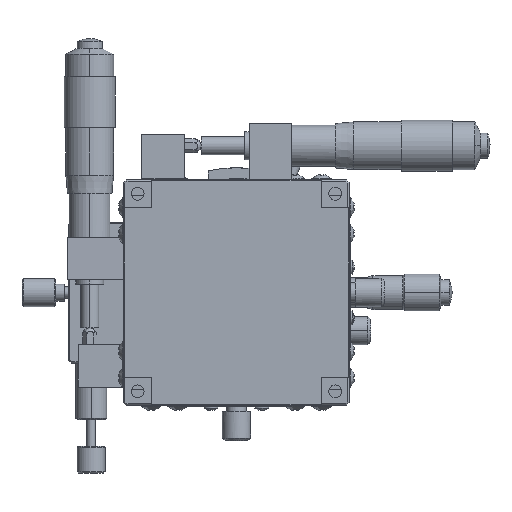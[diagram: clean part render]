
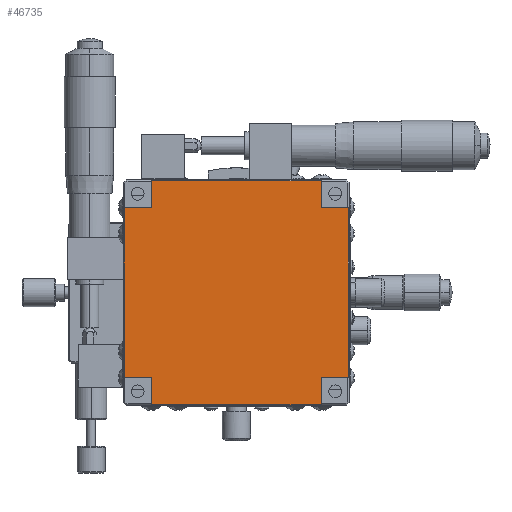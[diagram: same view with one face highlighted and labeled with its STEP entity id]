
A CAD part, front view. The second image highlights one B-rep face of the part: STEP entity #46735.
In plain terms, the highlighted planar face has unit normal (0, -1, 0).
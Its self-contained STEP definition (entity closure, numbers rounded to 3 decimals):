
#1333 = CARTESIAN_POINT ( 'NONE',  ( 22.855, -46.276, 86.465 ) ) ;
#1663 = LINE ( 'NONE', #52633, #39854 ) ;
#2036 = CARTESIAN_POINT ( 'NONE',  ( -46.845, -46.276, 86.465 ) ) ;
#2939 = CARTESIAN_POINT ( 'NONE',  ( 22.855, -46.276, 156.165 ) ) ;
#2988 = ORIENTED_EDGE ( 'NONE', *, *, #27297, .T. ) ;
#3189 = LINE ( 'NONE', #21402, #45895 ) ;
#3231 = VECTOR ( 'NONE', #43305, 1000. ) ;
#3241 = DIRECTION ( 'NONE',  ( 0., -1., 0. ) ) ;
#3281 = DIRECTION ( 'NONE',  ( 0., 0., 1. ) ) ;
#3804 = CARTESIAN_POINT ( 'NONE',  ( -56.545, -46.276, 86.465 ) ) ;
#5063 = CARTESIAN_POINT ( 'NONE',  ( -46.845, -46.276, 146.465 ) ) ;
#5426 = CARTESIAN_POINT ( 'NONE',  ( -46.845, -46.276, 76.765 ) ) ;
#5967 = ORIENTED_EDGE ( 'NONE', *, *, #32742, .T. ) ;
#6545 = VERTEX_POINT ( 'NONE', #3804 ) ;
#7528 = EDGE_CURVE ( 'NONE', #17884, #47713, #15680, .T. ) ;
#8325 = CARTESIAN_POINT ( 'NONE',  ( 13.155, -46.276, 86.465 ) ) ;
#8783 = EDGE_CURVE ( 'NONE', #47713, #36971, #25937, .T. ) ;
#11036 = LINE ( 'NONE', #35024, #3231 ) ;
#13947 = ORIENTED_EDGE ( 'NONE', *, *, #7528, .T. ) ;
#14731 = CARTESIAN_POINT ( 'NONE',  ( -56.545, -46.276, 156.165 ) ) ;
#15007 = VECTOR ( 'NONE', #39196, 1000. ) ;
#15363 = ORIENTED_EDGE ( 'NONE', *, *, #28367, .T. ) ;
#15440 = DIRECTION ( 'NONE',  ( 0., 0., -1. ) ) ;
#15680 = LINE ( 'NONE', #30167, #15007 ) ;
#16391 = ORIENTED_EDGE ( 'NONE', *, *, #44426, .T. ) ;
#17553 = CARTESIAN_POINT ( 'NONE',  ( -46.845, -46.276, 156.165 ) ) ;
#17884 = VERTEX_POINT ( 'NONE', #18396 ) ;
#18396 = CARTESIAN_POINT ( 'NONE',  ( 13.155, -46.276, 156.165 ) ) ;
#18513 = CARTESIAN_POINT ( 'NONE',  ( 22.855, -46.276, 86.465 ) ) ;
#19154 = EDGE_CURVE ( 'NONE', #24820, #36099, #19692, .T. ) ;
#19189 = DIRECTION ( 'NONE',  ( 0., 0., -1. ) ) ;
#19692 = LINE ( 'NONE', #45994, #35848 ) ;
#21353 = VECTOR ( 'NONE', #35515, 1000. ) ;
#21402 = CARTESIAN_POINT ( 'NONE',  ( 13.155, -46.276, 156.165 ) ) ;
#21428 = CARTESIAN_POINT ( 'NONE',  ( 13.155, -46.276, 146.465 ) ) ;
#21828 = ORIENTED_EDGE ( 'NONE', *, *, #50664, .T. ) ;
#21975 = ORIENTED_EDGE ( 'NONE', *, *, #50229, .T. ) ;
#22185 = VERTEX_POINT ( 'NONE', #18513 ) ;
#22510 = EDGE_CURVE ( 'NONE', #32576, #27378, #22983, .T. ) ;
#22749 = ORIENTED_EDGE ( 'NONE', *, *, #22510, .T. ) ;
#22983 = LINE ( 'NONE', #17553, #36568 ) ;
#23056 = LINE ( 'NONE', #40205, #39235 ) ;
#23208 = CARTESIAN_POINT ( 'NONE',  ( 22.855, -46.276, 76.765 ) ) ;
#24240 = CARTESIAN_POINT ( 'NONE',  ( -46.845, -46.276, 156.165 ) ) ;
#24681 = DIRECTION ( 'NONE',  ( -1., 0., 0. ) ) ;
#24820 = VERTEX_POINT ( 'NONE', #45671 ) ;
#24908 = EDGE_LOOP ( 'NONE', ( #21975, #30189, #15363, #22749, #5967, #2988, #46076, #16391, #44387, #21828, #13947, #25969 ) ) ;
#25702 = DIRECTION ( 'NONE',  ( 0., 0., 1. ) ) ;
#25778 = LINE ( 'NONE', #1333, #29663 ) ;
#25937 = LINE ( 'NONE', #35240, #37539 ) ;
#25969 = ORIENTED_EDGE ( 'NONE', *, *, #8783, .T. ) ;
#26629 = EDGE_CURVE ( 'NONE', #33005, #22185, #11036, .T. ) ;
#27297 = EDGE_CURVE ( 'NONE', #43832, #33005, #3189, .T. ) ;
#27378 = VERTEX_POINT ( 'NONE', #5426 ) ;
#28014 = CARTESIAN_POINT ( 'NONE',  ( 22.855, -46.276, 156.165 ) ) ;
#28367 = EDGE_CURVE ( 'NONE', #6545, #32576, #25778, .T. ) ;
#29663 = VECTOR ( 'NONE', #30795, 1000. ) ;
#30167 = CARTESIAN_POINT ( 'NONE',  ( 22.855, -46.276, 156.165 ) ) ;
#30189 = ORIENTED_EDGE ( 'NONE', *, *, #50169, .T. ) ;
#30714 = LINE ( 'NONE', #2939, #39793 ) ;
#30795 = DIRECTION ( 'NONE',  ( 1., 0., 0. ) ) ;
#31635 = DIRECTION ( 'NONE',  ( 0., 0., 1. ) ) ;
#32369 = PLANE ( 'NONE',  #46493 ) ;
#32576 = VERTEX_POINT ( 'NONE', #2036 ) ;
#32742 = EDGE_CURVE ( 'NONE', #27378, #43832, #51728, .T. ) ;
#32977 = CARTESIAN_POINT ( 'NONE',  ( -56.545, -46.276, 146.465 ) ) ;
#33005 = VERTEX_POINT ( 'NONE', #8325 ) ;
#34063 = VECTOR ( 'NONE', #15440, 1000. ) ;
#35024 = CARTESIAN_POINT ( 'NONE',  ( 22.855, -46.276, 86.465 ) ) ;
#35240 = CARTESIAN_POINT ( 'NONE',  ( -46.845, -46.276, 156.165 ) ) ;
#35515 = DIRECTION ( 'NONE',  ( 1., 0., 0. ) ) ;
#35848 = VECTOR ( 'NONE', #24681, 1000. ) ;
#36099 = VERTEX_POINT ( 'NONE', #21428 ) ;
#36364 = DIRECTION ( 'NONE',  ( 0., 0., -1. ) ) ;
#36568 = VECTOR ( 'NONE', #46424, 1000. ) ;
#36971 = VERTEX_POINT ( 'NONE', #5063 ) ;
#37539 = VECTOR ( 'NONE', #19189, 1000. ) ;
#38281 = FACE_OUTER_BOUND ( 'NONE', #24908, .T. ) ;
#39196 = DIRECTION ( 'NONE',  ( -1., 0., 0. ) ) ;
#39235 = VECTOR ( 'NONE', #52158, 1000. ) ;
#39793 = VECTOR ( 'NONE', #3281, 1000. ) ;
#39854 = VECTOR ( 'NONE', #31635, 1000. ) ;
#40205 = CARTESIAN_POINT ( 'NONE',  ( 22.855, -46.276, 146.465 ) ) ;
#41150 = CARTESIAN_POINT ( 'NONE',  ( 13.155, -46.276, 76.765 ) ) ;
#43305 = DIRECTION ( 'NONE',  ( 1., 0., 0. ) ) ;
#43832 = VERTEX_POINT ( 'NONE', #41150 ) ;
#44387 = ORIENTED_EDGE ( 'NONE', *, *, #19154, .T. ) ;
#44426 = EDGE_CURVE ( 'NONE', #22185, #24820, #30714, .T. ) ;
#45042 = LINE ( 'NONE', #14731, #34063 ) ;
#45671 = CARTESIAN_POINT ( 'NONE',  ( 22.855, -46.276, 146.465 ) ) ;
#45895 = VECTOR ( 'NONE', #25702, 1000. ) ;
#45994 = CARTESIAN_POINT ( 'NONE',  ( 22.855, -46.276, 146.465 ) ) ;
#46076 = ORIENTED_EDGE ( 'NONE', *, *, #26629, .T. ) ;
#46419 = VERTEX_POINT ( 'NONE', #32977 ) ;
#46424 = DIRECTION ( 'NONE',  ( 0., 0., -1. ) ) ;
#46493 = AXIS2_PLACEMENT_3D ( 'NONE', #28014, #3241, #36364 ) ;
#46735 = ADVANCED_FACE ( 'NONE', ( #38281 ), #32369, .T. ) ;
#47713 = VERTEX_POINT ( 'NONE', #24240 ) ;
#50169 = EDGE_CURVE ( 'NONE', #46419, #6545, #45042, .T. ) ;
#50229 = EDGE_CURVE ( 'NONE', #36971, #46419, #23056, .T. ) ;
#50664 = EDGE_CURVE ( 'NONE', #36099, #17884, #1663, .T. ) ;
#51728 = LINE ( 'NONE', #23208, #21353 ) ;
#52158 = DIRECTION ( 'NONE',  ( -1., 0., 0. ) ) ;
#52633 = CARTESIAN_POINT ( 'NONE',  ( 13.155, -46.276, 156.165 ) ) ;
